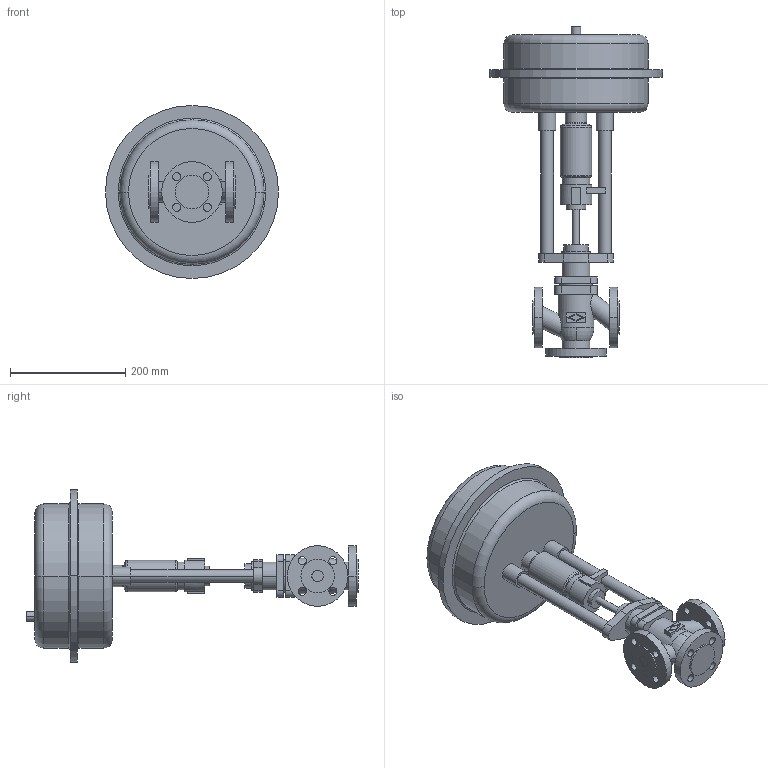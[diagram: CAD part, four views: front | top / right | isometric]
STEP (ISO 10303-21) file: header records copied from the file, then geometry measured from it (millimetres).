
FILE_DESCRIPTION(('OneSpaceDesigner STEP Export'),'2;1');
FILE_NAME('c000000661.stp','2006-09-19T10:00:08',(''),(''),'OneSpace Designer STEP processor for AP214 (Solid Model)','OneSpace Designer 13.20A 18-Aug-2005 (C) CoCreate Software GmbH','');
FILE_SCHEMA(('AUTOMOTIVE_DESIGN { 1 0 10303 214 1 1 1 1 }'));
Length unit declared in the file: millimetre
Products named in the file (2): 1; 2
Bounding box: 300 x 575.6 x 300 mm (x, y, z)
Volume: 8335835.3 mm3; surface area: 437103.4 mm2
Topology: 2 solids, 2 shells, 199 faces, 477 edges, 312 vertices
Faces by surface type: cylinder 96, plane 81, torus 18, cone 4
Entity records: 5295 total; most frequent: CARTESIAN_POINT 971, ORIENTED_EDGE 954, DIRECTION 800, EDGE_CURVE 477, VERTEX_POINT 312, AXIS2_PLACEMENT_3D 289, EDGE_LOOP 253, VECTOR 222
